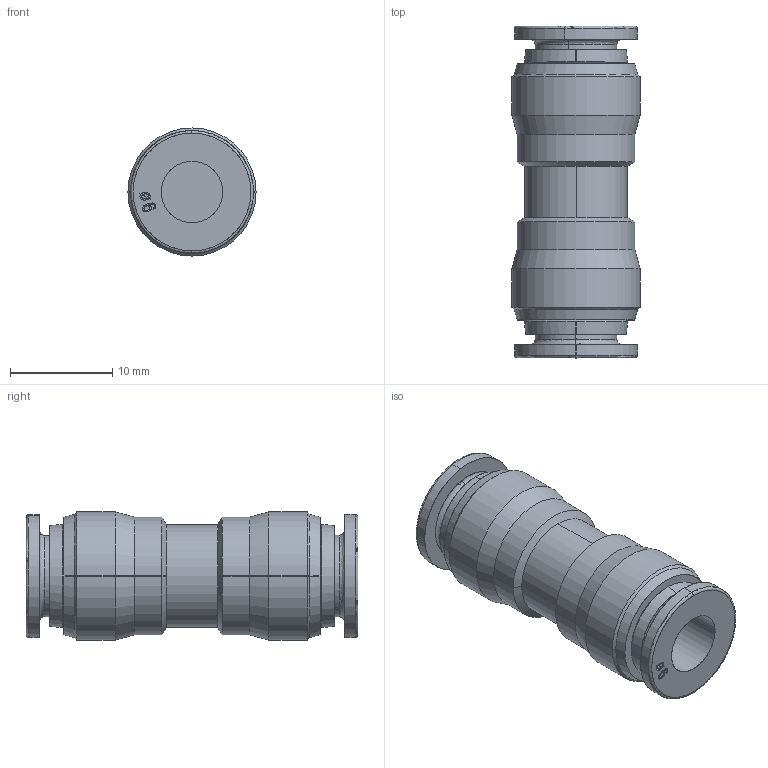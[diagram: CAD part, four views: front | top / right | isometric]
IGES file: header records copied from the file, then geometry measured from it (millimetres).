
Start section: SolidWorks IGES file using analytic representation for surfaces
Global section: file name: K:\Disegni Esecutivi\SERIE 59000 - FOODS and DRINK\ASSIEMI\59040\IGES\5904000003A.IGS; native system: SolidWorks 2016; preprocessor: SolidWorks 2016; author: cad06; date: 200618.112522; units: millimetre
Bounding box: 12.5 x 32.4 x 12.5 mm (x, y, z)
Surface area: 2212.3 mm2 (no closed solid volume)
Topology: 0 solids, 0 shells, 148 faces, 1822 edges, 1822 vertices
Faces by surface type: bspline 102, revolution 46
